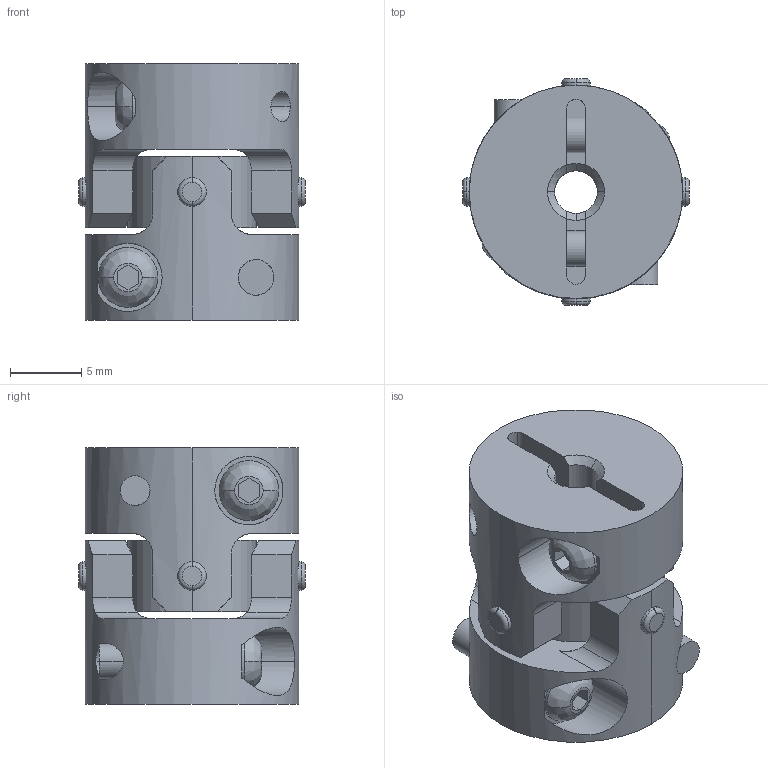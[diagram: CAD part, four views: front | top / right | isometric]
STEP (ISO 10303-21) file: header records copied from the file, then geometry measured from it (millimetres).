
FILE_DESCRIPTION((''),'2;1');
FILE_NAME('UA-15C-3×6.stp','2017-07-12T22:27:29',(''),(''),'AutoCAD STEP 2000i','AutoCAD 2000i',', , ');
FILE_SCHEMA(('CONFIG_CONTROL_DESIGN'));
Length unit declared in the file: millimetre
Products named in the file (7): UA-15C-3×6; 忣兜1; UA-1502-D06; BTN-M2.5; UA-1502-D03-1; UA-1502-D03; UA15-SEN
Assembly tree (8 placements, depth 3):
  UA-15C-3×6
    忣兜1
    UA-1502-D06
      BTN-M2.5
    UA-1502-D03-1
      BTN-M2.5
    UA-1502-D03
      BTN-M2.5
    UA15-SEN
Bounding box: 15.94 x 15.94 x 18 mm (x, y, z)
Volume: 2371.8 mm3; surface area: 2371.6 mm2
Topology: 1 solids, 1 shells, 210 faces, 558 edges, 364 vertices
Faces by surface type: cylinder 100, plane 78, cone 16, bspline 8, torus 8
Entity records: 8093 total; most frequent: CARTESIAN_POINT 2701, ORIENTED_EDGE 1116, DIRECTION 1084, EDGE_CURVE 558, AXIS2_PLACEMENT_3D 419, VERTEX_POINT 364, VECTOR 246, LINE 246
